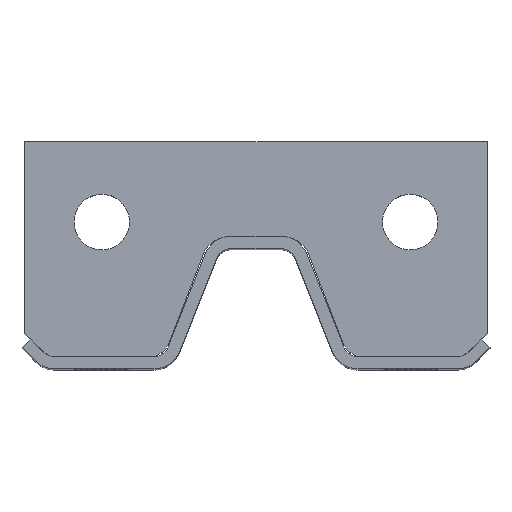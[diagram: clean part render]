
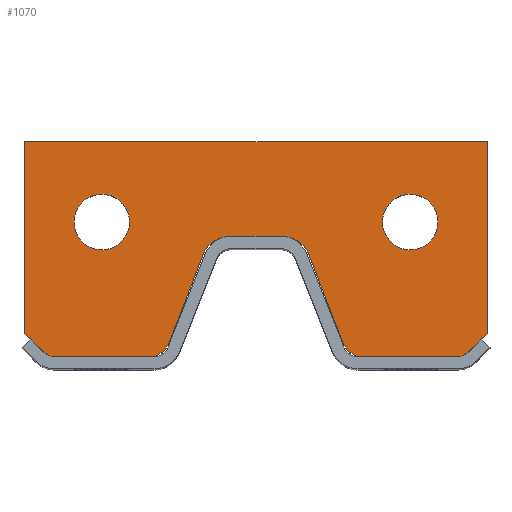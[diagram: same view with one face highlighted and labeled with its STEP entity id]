
A CAD part, top view. The second image highlights one B-rep face of the part: STEP entity #1070.
In plain terms, the highlighted planar face has unit normal (0, 0, 1).
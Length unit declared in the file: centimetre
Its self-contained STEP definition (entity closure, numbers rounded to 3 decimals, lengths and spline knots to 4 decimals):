
#40=FACE_BOUND('',#107,.T.);
#41=FACE_BOUND('',#108,.T.);
#52=FACE_OUTER_BOUND('',#106,.T.);
#106=EDGE_LOOP('',(#716,#717,#718,#719,#720,#721,#722,#723,#724,#725,#726,
#727,#728,#729,#730,#731,#732,#733));
#107=EDGE_LOOP('',(#734));
#108=EDGE_LOOP('',(#735));
#172=CIRCLE('',#1127,0.8);
#173=CIRCLE('',#1128,0.8);
#174=CIRCLE('',#1129,0.8);
#175=CIRCLE('',#1130,0.8);
#176=CIRCLE('',#1131,0.8);
#177=CIRCLE('',#1132,0.8);
#178=CIRCLE('',#1133,0.9);
#179=CIRCLE('',#1134,0.9);
#220=LINE('',#1552,#334);
#221=LINE('',#1554,#335);
#222=LINE('',#1556,#336);
#223=LINE('',#1560,#337);
#224=LINE('',#1564,#338);
#225=LINE('',#1568,#339);
#226=LINE('',#1570,#340);
#227=LINE('',#1572,#341);
#228=LINE('',#1576,#342);
#229=LINE('',#1580,#343);
#230=LINE('',#1584,#344);
#231=LINE('',#1585,#345);
#334=VECTOR('',#1232,0.1);
#335=VECTOR('',#1233,0.1);
#336=VECTOR('',#1234,0.1);
#337=VECTOR('',#1237,0.1);
#338=VECTOR('',#1240,0.1);
#339=VECTOR('',#1243,0.1);
#340=VECTOR('',#1244,0.1);
#341=VECTOR('',#1245,0.1);
#342=VECTOR('',#1248,0.1);
#343=VECTOR('',#1251,0.1);
#344=VECTOR('',#1254,0.1);
#345=VECTOR('',#1255,0.1);
#448=VERTEX_POINT('',#1550);
#449=VERTEX_POINT('',#1551);
#450=VERTEX_POINT('',#1553);
#451=VERTEX_POINT('',#1555);
#452=VERTEX_POINT('',#1557);
#453=VERTEX_POINT('',#1559);
#454=VERTEX_POINT('',#1561);
#455=VERTEX_POINT('',#1563);
#456=VERTEX_POINT('',#1565);
#457=VERTEX_POINT('',#1567);
#458=VERTEX_POINT('',#1569);
#459=VERTEX_POINT('',#1571);
#460=VERTEX_POINT('',#1573);
#461=VERTEX_POINT('',#1575);
#462=VERTEX_POINT('',#1577);
#463=VERTEX_POINT('',#1579);
#464=VERTEX_POINT('',#1581);
#465=VERTEX_POINT('',#1583);
#466=VERTEX_POINT('',#1586);
#467=VERTEX_POINT('',#1588);
#554=EDGE_CURVE('',#448,#449,#220,.T.);
#555=EDGE_CURVE('',#449,#450,#221,.T.);
#556=EDGE_CURVE('',#450,#451,#222,.T.);
#557=EDGE_CURVE('',#451,#452,#172,.T.);
#558=EDGE_CURVE('',#453,#452,#223,.T.);
#559=EDGE_CURVE('',#453,#454,#173,.T.);
#560=EDGE_CURVE('',#454,#455,#224,.T.);
#561=EDGE_CURVE('',#455,#456,#174,.T.);
#562=EDGE_CURVE('',#456,#457,#225,.T.);
#563=EDGE_CURVE('',#458,#457,#226,.T.);
#564=EDGE_CURVE('',#458,#459,#227,.T.);
#565=EDGE_CURVE('',#459,#460,#175,.T.);
#566=EDGE_CURVE('',#460,#461,#228,.T.);
#567=EDGE_CURVE('',#461,#462,#176,.T.);
#568=EDGE_CURVE('',#463,#462,#229,.T.);
#569=EDGE_CURVE('',#463,#464,#177,.T.);
#570=EDGE_CURVE('',#464,#465,#230,.T.);
#571=EDGE_CURVE('',#465,#448,#231,.T.);
#572=EDGE_CURVE('',#466,#466,#178,.T.);
#573=EDGE_CURVE('',#467,#467,#179,.T.);
#716=ORIENTED_EDGE('',*,*,#554,.T.);
#717=ORIENTED_EDGE('',*,*,#555,.T.);
#718=ORIENTED_EDGE('',*,*,#556,.T.);
#719=ORIENTED_EDGE('',*,*,#557,.T.);
#720=ORIENTED_EDGE('',*,*,#558,.F.);
#721=ORIENTED_EDGE('',*,*,#559,.T.);
#722=ORIENTED_EDGE('',*,*,#560,.T.);
#723=ORIENTED_EDGE('',*,*,#561,.T.);
#724=ORIENTED_EDGE('',*,*,#562,.T.);
#725=ORIENTED_EDGE('',*,*,#563,.F.);
#726=ORIENTED_EDGE('',*,*,#564,.T.);
#727=ORIENTED_EDGE('',*,*,#565,.T.);
#728=ORIENTED_EDGE('',*,*,#566,.T.);
#729=ORIENTED_EDGE('',*,*,#567,.T.);
#730=ORIENTED_EDGE('',*,*,#568,.F.);
#731=ORIENTED_EDGE('',*,*,#569,.T.);
#732=ORIENTED_EDGE('',*,*,#570,.T.);
#733=ORIENTED_EDGE('',*,*,#571,.T.);
#734=ORIENTED_EDGE('',*,*,#572,.T.);
#735=ORIENTED_EDGE('',*,*,#573,.T.);
#1040=PLANE('',#1126);
#1070=ADVANCED_FACE('',(#52,#40,#41),#1040,.T.);
#1126=AXIS2_PLACEMENT_3D('',#1549,#1230,#1231);
#1127=AXIS2_PLACEMENT_3D('',#1558,#1235,#1236);
#1128=AXIS2_PLACEMENT_3D('',#1562,#1238,#1239);
#1129=AXIS2_PLACEMENT_3D('',#1566,#1241,#1242);
#1130=AXIS2_PLACEMENT_3D('',#1574,#1246,#1247);
#1131=AXIS2_PLACEMENT_3D('',#1578,#1249,#1250);
#1132=AXIS2_PLACEMENT_3D('',#1582,#1252,#1253);
#1133=AXIS2_PLACEMENT_3D('',#1587,#1256,#1257);
#1134=AXIS2_PLACEMENT_3D('',#1589,#1258,#1259);
#1230=DIRECTION('center_axis',(0.,0.,1.));
#1231=DIRECTION('ref_axis',(1.,0.,0.));
#1232=DIRECTION('',(-1.,0.,0.));
#1233=DIRECTION('',(0.,-1.,0.));
#1234=DIRECTION('',(0.707,-0.707,0.));
#1235=DIRECTION('center_axis',(0.,0.,1.));
#1236=DIRECTION('ref_axis',(-0.707,-0.707,0.));
#1237=DIRECTION('',(-1.,0.,0.));
#1238=DIRECTION('center_axis',(0.,0.,1.));
#1239=DIRECTION('ref_axis',(0.,-1.,0.));
#1240=DIRECTION('',(0.359,0.933,0.));
#1241=DIRECTION('center_axis',(0.,0.,-1.));
#1242=DIRECTION('ref_axis',(-0.933,0.359,0.));
#1243=DIRECTION('',(1.,0.,0.));
#1244=DIRECTION('',(-1.,0.,0.));
#1245=DIRECTION('',(1.,0.,0.));
#1246=DIRECTION('center_axis',(0.,0.,-1.));
#1247=DIRECTION('ref_axis',(0.,1.,0.));
#1248=DIRECTION('',(0.359,-0.933,0.));
#1249=DIRECTION('center_axis',(0.,0.,1.));
#1250=DIRECTION('ref_axis',(-0.933,-0.359,0.));
#1251=DIRECTION('',(-1.,0.,0.));
#1252=DIRECTION('center_axis',(0.,0.,1.));
#1253=DIRECTION('ref_axis',(0.,-1.,0.));
#1254=DIRECTION('',(0.707,0.707,0.));
#1255=DIRECTION('',(0.,1.,0.));
#1256=DIRECTION('center_axis',(0.,0.,-1.));
#1257=DIRECTION('ref_axis',(1.,0.,0.));
#1258=DIRECTION('center_axis',(0.,0.,-1.));
#1259=DIRECTION('ref_axis',(1.,0.,0.));
#1549=CARTESIAN_POINT('Origin',(-85.9958,159.8304,1.));
#1550=CARTESIAN_POINT('',(-78.4958,163.0396,1.));
#1551=CARTESIAN_POINT('',(-93.4958,163.0396,1.));
#1552=CARTESIAN_POINT('',(-78.4958,163.0396,1.));
#1553=CARTESIAN_POINT('',(-93.4958,156.8396,1.));
#1554=CARTESIAN_POINT('',(-93.4958,163.0396,1.));
#1555=CARTESIAN_POINT('',(-92.9301,156.2739,1.));
#1556=CARTESIAN_POINT('',(-93.4958,156.8396,1.));
#1557=CARTESIAN_POINT('',(-92.3644,156.0396,1.));
#1558=CARTESIAN_POINT('Origin',(-92.3644,156.8396,1.));
#1559=CARTESIAN_POINT('',(-89.5452,156.0396,1.));
#1560=CARTESIAN_POINT('',(-89.2584,156.0396,1.));
#1561=CARTESIAN_POINT('',(-88.7985,156.5524,1.));
#1562=CARTESIAN_POINT('Origin',(-89.5452,156.8396,1.));
#1563=CARTESIAN_POINT('',(-87.693,159.4268,1.));
#1564=CARTESIAN_POINT('',(-88.7985,156.5524,1.));
#1565=CARTESIAN_POINT('',(-86.9463,159.9396,1.));
#1566=CARTESIAN_POINT('Origin',(-86.9463,159.1396,1.));
#1567=CARTESIAN_POINT('',(-86.8064,159.9396,1.));
#1568=CARTESIAN_POINT('',(-86.9463,159.9396,1.));
#1569=CARTESIAN_POINT('',(-85.1851,159.9396,1.));
#1570=CARTESIAN_POINT('',(-86.4011,159.9396,1.));
#1571=CARTESIAN_POINT('',(-85.0452,159.9396,1.));
#1572=CARTESIAN_POINT('',(-86.9463,159.9396,1.));
#1573=CARTESIAN_POINT('',(-84.2985,159.4268,1.));
#1574=CARTESIAN_POINT('Origin',(-85.0452,159.1396,1.));
#1575=CARTESIAN_POINT('',(-83.193,156.5524,1.));
#1576=CARTESIAN_POINT('',(-84.2985,159.4268,1.));
#1577=CARTESIAN_POINT('',(-82.4463,156.0396,1.));
#1578=CARTESIAN_POINT('Origin',(-82.4463,156.8396,1.));
#1579=CARTESIAN_POINT('',(-79.6271,156.0396,1.));
#1580=CARTESIAN_POINT('',(-84.3404,156.0396,1.));
#1581=CARTESIAN_POINT('',(-79.0614,156.2739,1.));
#1582=CARTESIAN_POINT('Origin',(-79.6271,156.8396,1.));
#1583=CARTESIAN_POINT('',(-78.4958,156.8396,1.));
#1584=CARTESIAN_POINT('',(-79.0614,156.2739,1.));
#1585=CARTESIAN_POINT('',(-78.4958,156.8396,1.));
#1586=CARTESIAN_POINT('',(-91.8958,160.4396,1.));
#1587=CARTESIAN_POINT('Origin',(-90.9958,160.4396,1.));
#1588=CARTESIAN_POINT('',(-81.8958,160.4396,1.));
#1589=CARTESIAN_POINT('Origin',(-80.9958,160.4396,1.));
